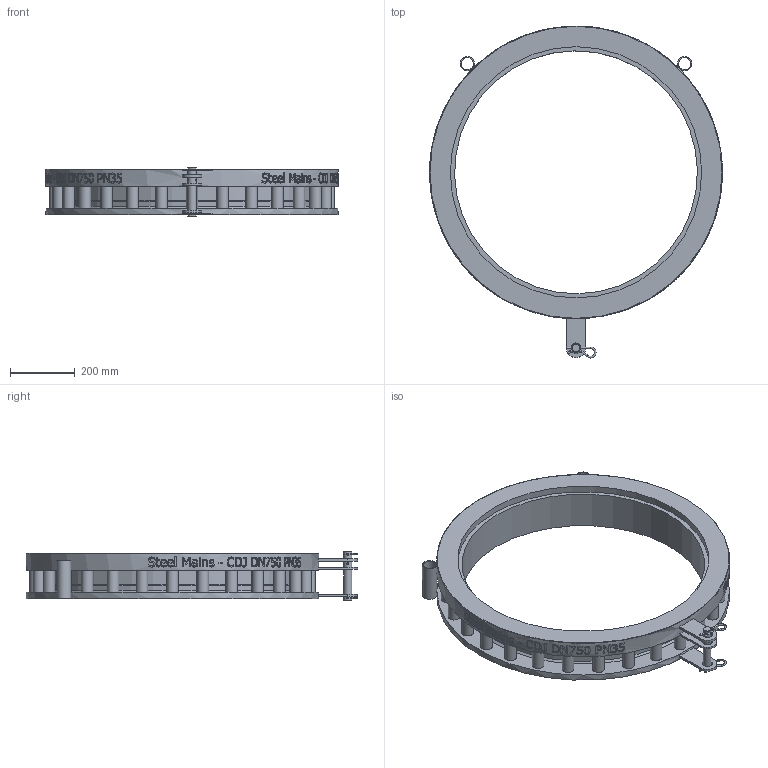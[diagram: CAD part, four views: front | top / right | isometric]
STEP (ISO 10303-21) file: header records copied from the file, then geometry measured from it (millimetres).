
FILE_DESCRIPTION(/* description */ (''),/* implementation_level */ '2;1');
FILE_NAME(/* name */ 'C:\Vault\Designs\Somerton\196\196-41 Models\Marketing Files\SteelMains - CDJ DN750 PN35 - (196-41T rev B).stp',/* time_stamp */ '2025-09-29T12:03:23+10:00',/* author */ ('Sam.Cavallaro'),/* organization */ (''),/* preprocessor_version */ 'ST-DEVELOPER v18.1',/* originating_system */ 'Autodesk Inventor 2021',/* authorisation */ '');
FILE_SCHEMA (('AUTOMOTIVE_DESIGN { 1 0 10303 214 3 1 1 }'));
Length unit declared in the file: millimetre
Products named in the file (1): SPS_ENG-084850
Bounding box: 904 x 1025.16 x 151 mm (x, y, z)
Volume: 17699872.6 mm3; surface area: 1725657.8 mm2
Topology: 6 solids, 6 shells, 845 faces, 2310 edges, 1541 vertices
Faces by surface type: bspline 394, plane 317, cylinder 121, torus 8, cone 5
Full cylindrical faces by diameter (mm): 4.8 x10, 6 x3, 25 x1, 30 x3, 36 x28, 38.1 x2, 44.5 x2, 750 x1, 770 x1, 774 x1, 776 x1, 904 x1
Entity records: 37186 total; most frequent: CARTESIAN_POINT 17686, ORIENTED_EDGE 4626, DIRECTION 2843, EDGE_CURVE 2313, VERTEX_POINT 1544, LINE 1071, VECTOR 1071, EDGE_LOOP 983
